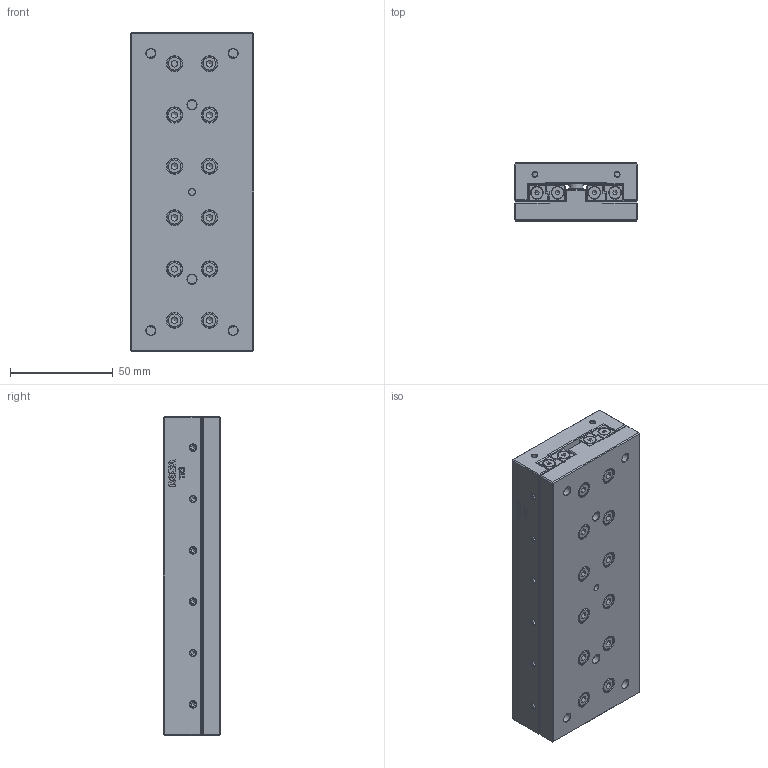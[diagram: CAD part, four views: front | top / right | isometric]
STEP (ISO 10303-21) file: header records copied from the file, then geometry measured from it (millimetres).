
FILE_DESCRIPTION(/* description */ ('Tavola TR3 L= 155 mm'),/* implementation_level */ '2;1');
FILE_NAME(/* name */ 'TR030155-00.stp',/* time_stamp */ '2024-02-07T10:27:38+01:00',/* author */ ('Rosa sistemi'),/* organization */ (''),/* preprocessor_version */ 'ST-DEVELOPER v20',/* originating_system */ 'Autodesk Inventor 2024',/* authorisation */ '');
FILE_SCHEMA (('AUTOMOTIVE_DESIGN { 1 0 10303 214 3 1 1 }'));
Products named in the file (2): TR030155-00; TR030155-00_1
Assembly tree (1 placements, depth 2):
  TR030155-00
    TR030155-00_1
Bounding box: 60 x 28 x 155 mm (x, y, z)
Volume: 237684.2 mm3; surface area: 74984.6 mm2
Topology: 12 solids, 12 shells, 1733 faces, 4415 edges, 2894 vertices
Faces by surface type: plane 1040, cylinder 253, bspline 196, cone 190, torus 54
Full cylindrical faces by diameter (mm): 0.929 x4, 1.161 x1, 2.459 x4, 2.554 x4, 3 x6, 3.1 x4, 3.192 x1, 3.242 x40, 4 x24, 4.5 x30, 5.7 x8, 6 x24, 7 x24, 7.5 x30
Entity records: 54690 total; most frequent: CARTESIAN_POINT 12274, ORIENTED_EDGE 8746, DIRECTION 7764, EDGE_CURVE 4373, VERTEX_POINT 2894, LINE 2642, VECTOR 2642, AXIS2_PLACEMENT_3D 2561
